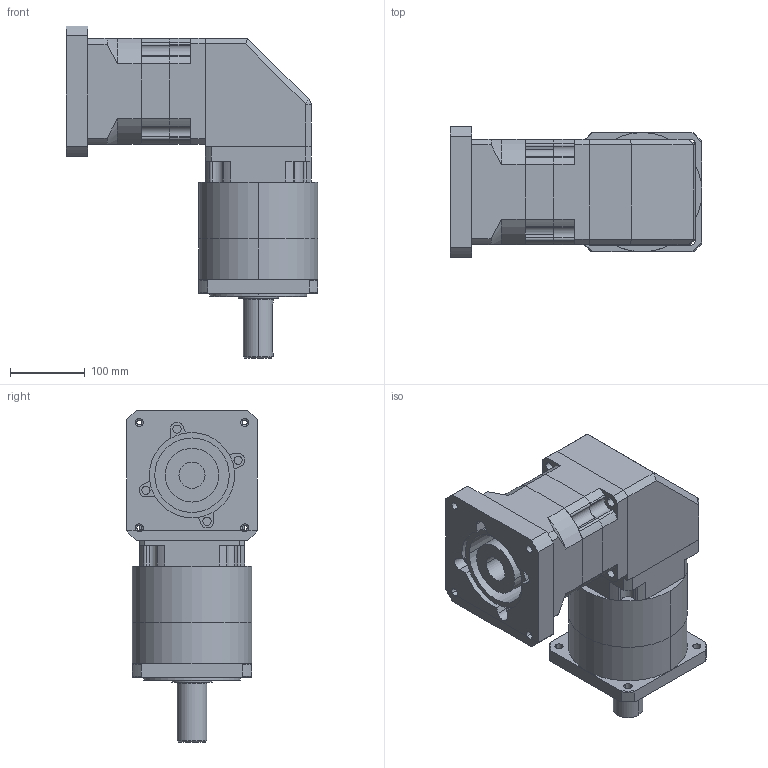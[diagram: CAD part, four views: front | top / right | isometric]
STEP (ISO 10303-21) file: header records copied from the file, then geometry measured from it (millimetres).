
FILE_DESCRIPTION (( 'STEP AP214' ), '1' );
FILE_NAME ('PFR160-L3-S2-P2 35-114.3-200-M12.STEP', '2021-04-24T02:43:08', ( 'Microsoft' ), ( 'Microsoft China' ), 'SwSTEP 2.0', 'SolidWorks 2016', '' );
FILE_SCHEMA (( 'AUTOMOTIVE_DESIGN' ));
Length unit declared in the file: millimetre
Products named in the file (5): xiao-chiquan; shuruduan; PFR160_X2_53CC7EA7FF08_X0_35-80-114.3-6-4-13.5-200_X2_FF09_X0__step; PFR142_X2_4E097EA765B07ED36784FF08_X0_35-80-114.3-4-4-13.5-200_X2_FF09_X0__step; PFR160-L3-S2-P2 35-114.3-200-M12
Assembly tree (4 placements, depth 2):
  PFR160-L3-S2-P2 35-114.3-200-M12
    PFR142_X2_4E097EA765B07ED36784FF08_X0_35-80-114.3-4-4-13.5-200_X2_FF09_X0__step
    PFR160_X2_53CC7EA7FF08_X0_35-80-114.3-6-4-13.5-200_X2_FF09_X0__step
    shuruduan
    xiao-chiquan
Bounding box: 338 x 175 x 445.5 mm (x, y, z)
Volume: 9871338.3 mm3; surface area: 688312.1 mm2
Topology: 8 solids, 8 shells, 359 faces, 952 edges, 621 vertices
Faces by surface type: cylinder 215, plane 110, cone 32, bspline 2
Entity records: 15969 total; most frequent: CARTESIAN_POINT 2388, DIRECTION 2118, ORIENTED_EDGE 1896, EDGE_CURVE 948, AXIS2_PLACEMENT_3D 842, VERTEX_POINT 620, CIRCLE 478, EDGE_LOOP 434
